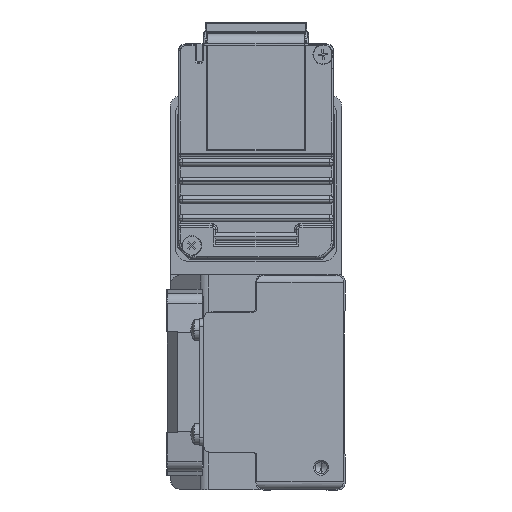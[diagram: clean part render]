
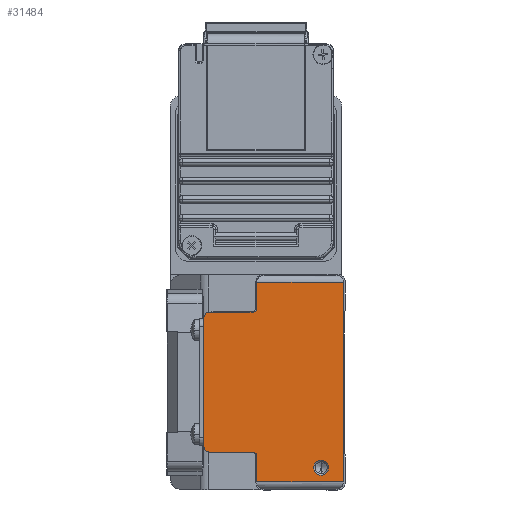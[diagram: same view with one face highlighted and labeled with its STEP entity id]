
A CAD part, left-side view. The second image highlights one B-rep face of the part: STEP entity #31484.
In plain terms, the highlighted planar face has unit normal (-1, 0, 0) as drawn and (0, 0, 1) by its records, which use the part's own axes.
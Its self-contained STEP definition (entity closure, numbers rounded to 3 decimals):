
#275 = DIRECTION ( 'NONE',  ( -1., 0., 0. ) ) ;
#441 = EDGE_CURVE ( 'NONE', #26747, #37231, #16175, .T. ) ;
#618 = VECTOR ( 'NONE', #12405, 1000. ) ;
#739 = LINE ( 'NONE', #43402, #39376 ) ;
#1048 = AXIS2_PLACEMENT_3D ( 'NONE', #33865, #23269, #13485 ) ;
#1469 = VERTEX_POINT ( 'NONE', #25475 ) ;
#1971 = DIRECTION ( 'NONE',  ( 1., 0., 0. ) ) ;
#2449 = EDGE_CURVE ( 'NONE', #4491, #10064, #39594, .T. ) ;
#2986 = DIRECTION ( 'NONE',  ( 1., 0., 0. ) ) ;
#3249 = CARTESIAN_POINT ( 'NONE',  ( 18.8, 36.5, 670. ) ) ;
#3493 = ORIENTED_EDGE ( 'NONE', *, *, #41441, .T. ) ;
#4209 = CARTESIAN_POINT ( 'NONE',  ( -23., 6.5, 670. ) ) ;
#4491 = VERTEX_POINT ( 'NONE', #16890 ) ;
#4776 = ORIENTED_EDGE ( 'NONE', *, *, #12846, .F. ) ;
#5413 = CIRCLE ( 'NONE', #1048, 1.5 ) ;
#5484 = LINE ( 'NONE', #44710, #618 ) ;
#6294 = CARTESIAN_POINT ( 'NONE',  ( -26.8, 21.8, 670. ) ) ;
#6941 = VECTOR ( 'NONE', #40065, 1000. ) ;
#7444 = DIRECTION ( 'NONE',  ( -1., 0., 0. ) ) ;
#8191 = CARTESIAN_POINT ( 'NONE',  ( 17.3, 38., 670. ) ) ;
#8520 = AXIS2_PLACEMENT_3D ( 'NONE', #39383, #39607, #18157 ) ;
#9316 = EDGE_CURVE ( 'NONE', #40666, #33726, #5484, .T. ) ;
#10064 = VERTEX_POINT ( 'NONE', #26628 ) ;
#10541 = ORIENTED_EDGE ( 'NONE', *, *, #19976, .F. ) ;
#11095 = AXIS2_PLACEMENT_3D ( 'NONE', #6294, #27828, #44391 ) ;
#11895 = CARTESIAN_POINT ( 'NONE',  ( -26.8, 0.5, 670. ) ) ;
#11958 = VERTEX_POINT ( 'NONE', #35990 ) ;
#12201 = EDGE_CURVE ( 'NONE', #18379, #16616, #15381, .T. ) ;
#12336 = VECTOR ( 'NONE', #12784, 1000. ) ;
#12405 = DIRECTION ( 'NONE',  ( 0., 1., 0. ) ) ;
#12784 = DIRECTION ( 'NONE',  ( 0., -1., 0. ) ) ;
#12846 = EDGE_CURVE ( 'NONE', #40666, #37231, #34856, .T. ) ;
#12983 = CARTESIAN_POINT ( 'NONE',  ( -17.3, 36.5, 670. ) ) ;
#13059 = ORIENTED_EDGE ( 'NONE', *, *, #441, .T. ) ;
#13485 = DIRECTION ( 'NONE',  ( 1., 0., 0. ) ) ;
#14305 = AXIS2_PLACEMENT_3D ( 'NONE', #4209, #32653, #7444 ) ;
#14785 = CIRCLE ( 'NONE', #28902, 2. ) ;
#14815 = VECTOR ( 'NONE', #29569, 1000. ) ;
#14905 = DIRECTION ( 'NONE',  ( 0., -1., 0. ) ) ;
#14913 = AXIS2_PLACEMENT_3D ( 'NONE', #34385, #38268, #2986 ) ;
#15381 = LINE ( 'NONE', #33631, #14815 ) ;
#15901 = VECTOR ( 'NONE', #41556, 1000. ) ;
#16175 = LINE ( 'NONE', #30332, #34334 ) ;
#16313 = ORIENTED_EDGE ( 'NONE', *, *, #44905, .T. ) ;
#16452 = FACE_BOUND ( 'NONE', #25659, .T. ) ;
#16616 = VERTEX_POINT ( 'NONE', #42521 ) ;
#16677 = FACE_OUTER_BOUND ( 'NONE', #35116, .T. ) ;
#16890 = CARTESIAN_POINT ( 'NONE',  ( -26.8, 0.5, 670. ) ) ;
#17217 = VERTEX_POINT ( 'NONE', #8191 ) ;
#17444 = EDGE_CURVE ( 'NONE', #1469, #35954, #41561, .T. ) ;
#18157 = DIRECTION ( 'NONE',  ( 1., 0., 0. ) ) ;
#18379 = VERTEX_POINT ( 'NONE', #35458 ) ;
#18547 = EDGE_CURVE ( 'NONE', #17217, #21293, #31284, .T. ) ;
#19267 = EDGE_CURVE ( 'NONE', #18379, #11958, #26275, .T. ) ;
#19740 = LINE ( 'NONE', #33825, #12336 ) ;
#19976 = EDGE_CURVE ( 'NONE', #26747, #10064, #25356, .T. ) ;
#20226 = ORIENTED_EDGE ( 'NONE', *, *, #34902, .T. ) ;
#20266 = AXIS2_PLACEMENT_3D ( 'NONE', #12983, #44844, #1971 ) ;
#20723 = ORIENTED_EDGE ( 'NONE', *, *, #39673, .T. ) ;
#21293 = VERTEX_POINT ( 'NONE', #43264 ) ;
#21542 = DIRECTION ( 'NONE',  ( 0., 0., -1. ) ) ;
#23269 = DIRECTION ( 'NONE',  ( 0., 0., 1. ) ) ;
#23652 = PLANE ( 'NONE',  #11095 ) ;
#23840 = CARTESIAN_POINT ( 'NONE',  ( -18.8, 36.5, 670. ) ) ;
#24774 = CARTESIAN_POINT ( 'NONE',  ( -23., 6.5, 670. ) ) ;
#25356 = LINE ( 'NONE', #36395, #42502 ) ;
#25449 = DIRECTION ( 'NONE',  ( 0., -1., 0. ) ) ;
#25475 = CARTESIAN_POINT ( 'NONE',  ( -21., 6.5, 670. ) ) ;
#25659 = EDGE_LOOP ( 'NONE', ( #3493, #38201 ) ) ;
#26092 = ORIENTED_EDGE ( 'NONE', *, *, #2449, .T. ) ;
#26275 = CIRCLE ( 'NONE', #8520, 1. ) ;
#26628 = CARTESIAN_POINT ( 'NONE',  ( 26.8, 0.5, 670. ) ) ;
#26747 = VERTEX_POINT ( 'NONE', #35313 ) ;
#27828 = DIRECTION ( 'NONE',  ( 0., 0., 1. ) ) ;
#28626 = CARTESIAN_POINT ( 'NONE',  ( 19.8, 23.8, 670. ) ) ;
#28651 = ORIENTED_EDGE ( 'NONE', *, *, #18547, .T. ) ;
#28902 = AXIS2_PLACEMENT_3D ( 'NONE', #24774, #21542, #275 ) ;
#29569 = DIRECTION ( 'NONE',  ( -1., 0., 0. ) ) ;
#29884 = ORIENTED_EDGE ( 'NONE', *, *, #19267, .F. ) ;
#30332 = CARTESIAN_POINT ( 'NONE',  ( 26.8, 23.8, 670. ) ) ;
#31284 = LINE ( 'NONE', #42489, #15901 ) ;
#31484 = ADVANCED_FACE ( 'NONE', ( #16452, #16677 ), #23652, .T. ) ;
#32387 = VERTEX_POINT ( 'NONE', #23840 ) ;
#32653 = DIRECTION ( 'NONE',  ( 0., 0., -1. ) ) ;
#33323 = CARTESIAN_POINT ( 'NONE',  ( 18.8, 24.8, 670. ) ) ;
#33631 = CARTESIAN_POINT ( 'NONE',  ( -19.8, 23.8, 670. ) ) ;
#33726 = VERTEX_POINT ( 'NONE', #3249 ) ;
#33825 = CARTESIAN_POINT ( 'NONE',  ( -26.8, 24., 670. ) ) ;
#33865 = CARTESIAN_POINT ( 'NONE',  ( 17.3, 36.5, 670. ) ) ;
#34334 = VECTOR ( 'NONE', #44325, 1000. ) ;
#34385 = CARTESIAN_POINT ( 'NONE',  ( 19.8, 24.8, 670. ) ) ;
#34464 = EDGE_CURVE ( 'NONE', #33726, #17217, #5413, .T. ) ;
#34856 = CIRCLE ( 'NONE', #14913, 1. ) ;
#34902 = EDGE_CURVE ( 'NONE', #21293, #32387, #34971, .T. ) ;
#34971 = CIRCLE ( 'NONE', #20266, 1.5 ) ;
#35067 = ORIENTED_EDGE ( 'NONE', *, *, #12201, .T. ) ;
#35116 = EDGE_LOOP ( 'NONE', ( #16313, #29884, #35067, #20723, #26092, #10541, #13059, #4776, #43795, #36596, #28651, #20226 ) ) ;
#35313 = CARTESIAN_POINT ( 'NONE',  ( 26.8, 23.8, 670. ) ) ;
#35458 = CARTESIAN_POINT ( 'NONE',  ( -19.8, 23.8, 670. ) ) ;
#35954 = VERTEX_POINT ( 'NONE', #39243 ) ;
#35990 = CARTESIAN_POINT ( 'NONE',  ( -18.8, 24.8, 670. ) ) ;
#36395 = CARTESIAN_POINT ( 'NONE',  ( 26.8, 24., 670. ) ) ;
#36596 = ORIENTED_EDGE ( 'NONE', *, *, #34464, .T. ) ;
#37231 = VERTEX_POINT ( 'NONE', #28626 ) ;
#38201 = ORIENTED_EDGE ( 'NONE', *, *, #17444, .T. ) ;
#38268 = DIRECTION ( 'NONE',  ( 0., 0., 1. ) ) ;
#39243 = CARTESIAN_POINT ( 'NONE',  ( -25., 6.5, 670. ) ) ;
#39376 = VECTOR ( 'NONE', #25449, 1000. ) ;
#39383 = CARTESIAN_POINT ( 'NONE',  ( -19.8, 24.8, 670. ) ) ;
#39594 = LINE ( 'NONE', #11895, #6941 ) ;
#39607 = DIRECTION ( 'NONE',  ( 0., 0., 1. ) ) ;
#39673 = EDGE_CURVE ( 'NONE', #16616, #4491, #19740, .T. ) ;
#40065 = DIRECTION ( 'NONE',  ( 1., 0., 0. ) ) ;
#40666 = VERTEX_POINT ( 'NONE', #33323 ) ;
#41441 = EDGE_CURVE ( 'NONE', #35954, #1469, #14785, .T. ) ;
#41556 = DIRECTION ( 'NONE',  ( -1., 0., 0. ) ) ;
#41561 = CIRCLE ( 'NONE', #14305, 2. ) ;
#42489 = CARTESIAN_POINT ( 'NONE',  ( 17.3, 38., 670. ) ) ;
#42502 = VECTOR ( 'NONE', #14905, 1000. ) ;
#42521 = CARTESIAN_POINT ( 'NONE',  ( -26.8, 23.8, 670. ) ) ;
#43264 = CARTESIAN_POINT ( 'NONE',  ( -17.3, 38., 670. ) ) ;
#43402 = CARTESIAN_POINT ( 'NONE',  ( -18.8, 36.5, 670. ) ) ;
#43795 = ORIENTED_EDGE ( 'NONE', *, *, #9316, .T. ) ;
#44325 = DIRECTION ( 'NONE',  ( -1., 0., 0. ) ) ;
#44391 = DIRECTION ( 'NONE',  ( 1., 0., 0. ) ) ;
#44710 = CARTESIAN_POINT ( 'NONE',  ( 18.8, 24.8, 670. ) ) ;
#44844 = DIRECTION ( 'NONE',  ( 0., 0., 1. ) ) ;
#44905 = EDGE_CURVE ( 'NONE', #32387, #11958, #739, .T. ) ;
